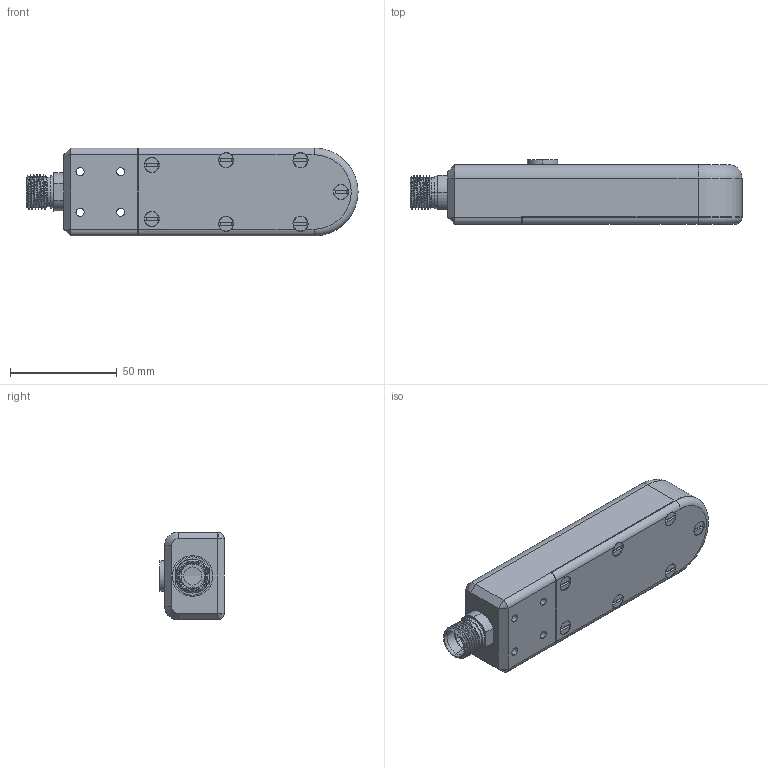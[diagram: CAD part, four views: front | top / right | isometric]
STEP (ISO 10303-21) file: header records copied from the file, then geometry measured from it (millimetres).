
FILE_DESCRIPTION (( 'STEP AP214' ), '1' );
FILE_NAME ('UV1, MarineSitu.STEP', '2026-05-08T18:39:07', ( '' ), ( '' ), 'SwSTEP 2.0', 'SolidWorks 2020', '' );
FILE_SCHEMA (( 'AUTOMOTIVE_DESIGN' ));
Length unit declared in the file: metre
Products named in the file (1): UV1, MarineSitu
Bounding box: 155.86 x 30.22 x 41.27 mm (x, y, z)
Surface area: 23563.9 mm2 (no closed solid volume)
Topology: 0 solids, 12 shells, 221 faces, 605 edges, 395 vertices
Faces by surface type: cylinder 94, plane 88, cone 32, torus 4, bspline 3
Entity records: 12371 total; most frequent: CARTESIAN_POINT 4381, DIRECTION 1211, ORIENTED_EDGE 1035, EDGE_CURVE 603, AXIS2_PLACEMENT_3D 463, VERTEX_POINT 395, LINE 285, VECTOR 285
